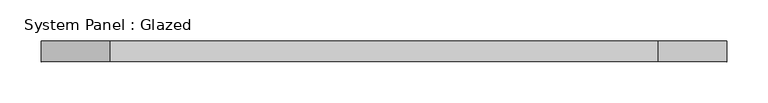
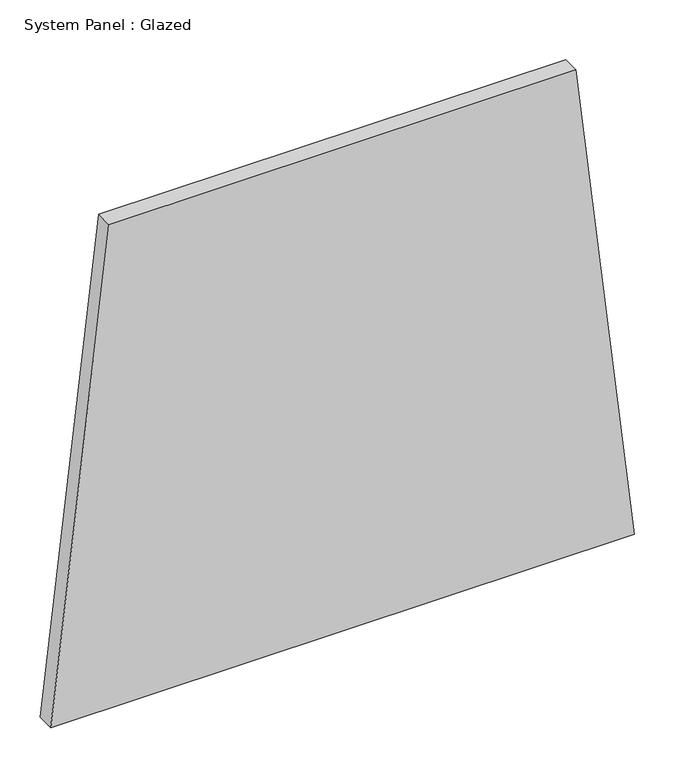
"""IFC4 building model written with IfcOpenShell, lengths in millimetres: plate geometry, System Panel : Glazed."""

from ifc_helpers import new_model, si_unit, frame, origin, place, context, project, spatial, polyline, outline, extrude, source, transform, mapped, element, save


def system_panel_glazed_6d268319(model_context):
    return source(origin(), model_context, "Body", "SweptSolid", [
        extrude(outline(polyline([(0.0, -417.4897285), (0.0, 417.4897285), (731.6929072, 334.0478698), (731.6929072, -334.0478698), (0.0, -417.4897285)])), frame((0.0, 19.05, 0.0), z_axis=(0.0, 1.0, 0.0), x_axis=(0.0, 0.0, 1.0)), (0.0, 0.0, 1.0), 25.4),
    ])


if __name__ == "__main__":
    model = new_model("IFC4")
    model_context = context("Model", 3, world=origin())
    ifc_project = project(units=[si_unit("LENGTHUNIT", "METRE", prefix="MILLI")], contexts=[model_context])
    site = spatial("IfcSite", under=ifc_project)
    building = spatial("IfcBuilding", under=site)
    placement = place(None, origin())
    system_panel_glazed_shape = system_panel_glazed_6d268319(model_context)
    element("IfcPlate", 1, ObjectType="System Panel : Glazed", at=placement, inside=building, context=model_context, shape_type="MappedRepresentation", body=[
        mapped(system_panel_glazed_shape, transform((0.0, 0.0, 0.0), x_axis=(1.0, 0.0, 0.0), y_axis=(0.0, 1.0, 0.0), z_axis=(0.0, 0.0, 1.0))),
    ])
    save(model, "model.ifc")
